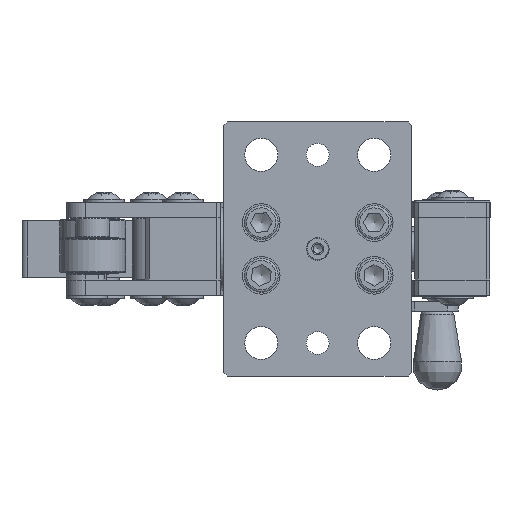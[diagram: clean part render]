
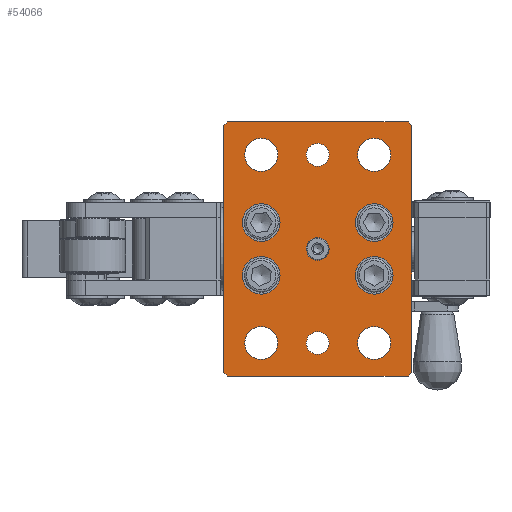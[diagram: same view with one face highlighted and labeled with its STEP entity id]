
A CAD part, left-side view. The second image highlights one B-rep face of the part: STEP entity #54066.
In plain terms, the highlighted planar face has unit normal (-1, 0, 0) as drawn and (0, 0, -1) by its records, which use the part's own axes.
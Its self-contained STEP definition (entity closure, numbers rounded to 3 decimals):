
#5401=FACE_BOUND('',#13225,.T.);
#5402=FACE_BOUND('',#13226,.T.);
#5403=FACE_BOUND('',#13227,.T.);
#5404=FACE_BOUND('',#13228,.T.);
#5405=FACE_BOUND('',#13229,.T.);
#5406=FACE_BOUND('',#13230,.T.);
#5407=FACE_BOUND('',#13231,.T.);
#5408=FACE_BOUND('',#13232,.T.);
#5409=FACE_BOUND('',#13233,.T.);
#5410=FACE_BOUND('',#13234,.T.);
#5411=FACE_BOUND('',#13235,.T.);
#7121=PLANE('',#56701);
#9841=FACE_OUTER_BOUND('',#13224,.T.);
#13224=EDGE_LOOP('',(#49952,#49953,#49954,#49955,#49956,#49957,#49958,#49959));
#13225=EDGE_LOOP('',(#49960));
#13226=EDGE_LOOP('',(#49961));
#13227=EDGE_LOOP('',(#49962));
#13228=EDGE_LOOP('',(#49963));
#13229=EDGE_LOOP('',(#49964));
#13230=EDGE_LOOP('',(#49965));
#13231=EDGE_LOOP('',(#49966));
#13232=EDGE_LOOP('',(#49967));
#13233=EDGE_LOOP('',(#49968));
#13234=EDGE_LOOP('',(#49969));
#13235=EDGE_LOOP('',(#49970));
#18362=LINE('',#93473,#23386);
#18369=LINE('',#93485,#23393);
#18375=LINE('',#93497,#23399);
#18377=LINE('',#93501,#23401);
#18379=LINE('',#93507,#23403);
#18381=LINE('',#93511,#23405);
#18386=LINE('',#93519,#23410);
#18389=LINE('',#93570,#23413);
#23386=VECTOR('',#66276,2.828);
#23393=VECTOR('',#66285,131.);
#23399=VECTOR('',#66295,2.828);
#23401=VECTOR('',#66299,96.);
#23403=VECTOR('',#66305,2.828);
#23405=VECTOR('',#66309,131.);
#23410=VECTOR('',#66316,2.828);
#23413=VECTOR('',#66383,96.);
#24092=CIRCLE('',#56627,6.05);
#24094=CIRCLE('',#56630,6.05);
#24096=CIRCLE('',#56633,6.05);
#24099=CIRCLE('',#56639,8.75);
#24103=CIRCLE('',#56646,8.75);
#24107=CIRCLE('',#56653,8.75);
#24110=CIRCLE('',#56659,8.75);
#24117=CIRCLE('',#56680,10.);
#24120=CIRCLE('',#56686,10.);
#24123=CIRCLE('',#56692,10.);
#24126=CIRCLE('',#56698,10.);
#28726=VERTEX_POINT('',#93414);
#28728=VERTEX_POINT('',#93419);
#28730=VERTEX_POINT('',#93424);
#28733=VERTEX_POINT('',#93433);
#28737=VERTEX_POINT('',#93444);
#28741=VERTEX_POINT('',#93455);
#28744=VERTEX_POINT('',#93464);
#28747=VERTEX_POINT('',#93470);
#28748=VERTEX_POINT('',#93472);
#28752=VERTEX_POINT('',#93483);
#28756=VERTEX_POINT('',#93495);
#28757=VERTEX_POINT('',#93499);
#28758=VERTEX_POINT('',#93504);
#28759=VERTEX_POINT('',#93506);
#28760=VERTEX_POINT('',#93510);
#28769=VERTEX_POINT('',#93539);
#28772=VERTEX_POINT('',#93548);
#28775=VERTEX_POINT('',#93557);
#28778=VERTEX_POINT('',#93566);
#35867=EDGE_CURVE('',#28726,#28726,#24092,.T.);
#35869=EDGE_CURVE('',#28728,#28728,#24094,.T.);
#35871=EDGE_CURVE('',#28730,#28730,#24096,.T.);
#35874=EDGE_CURVE('',#28733,#28733,#24099,.T.);
#35878=EDGE_CURVE('',#28737,#28737,#24103,.T.);
#35882=EDGE_CURVE('',#28741,#28741,#24107,.T.);
#35885=EDGE_CURVE('',#28744,#28744,#24110,.T.);
#35888=EDGE_CURVE('',#28747,#28748,#18362,.T.);
#35895=EDGE_CURVE('',#28747,#28752,#18369,.T.);
#35901=EDGE_CURVE('',#28756,#28752,#18375,.T.);
#35903=EDGE_CURVE('',#28756,#28757,#18377,.T.);
#35905=EDGE_CURVE('',#28758,#28759,#18379,.T.);
#35907=EDGE_CURVE('',#28760,#28759,#18381,.T.);
#35912=EDGE_CURVE('',#28760,#28757,#18386,.T.);
#35921=EDGE_CURVE('',#28769,#28769,#24117,.T.);
#35924=EDGE_CURVE('',#28772,#28772,#24120,.T.);
#35927=EDGE_CURVE('',#28775,#28775,#24123,.T.);
#35930=EDGE_CURVE('',#28778,#28778,#24126,.T.);
#35931=EDGE_CURVE('',#28758,#28748,#18389,.T.);
#49952=ORIENTED_EDGE('',*,*,#35888,.F.);
#49953=ORIENTED_EDGE('',*,*,#35895,.T.);
#49954=ORIENTED_EDGE('',*,*,#35901,.F.);
#49955=ORIENTED_EDGE('',*,*,#35903,.T.);
#49956=ORIENTED_EDGE('',*,*,#35912,.F.);
#49957=ORIENTED_EDGE('',*,*,#35907,.T.);
#49958=ORIENTED_EDGE('',*,*,#35905,.F.);
#49959=ORIENTED_EDGE('',*,*,#35931,.T.);
#49960=ORIENTED_EDGE('',*,*,#35867,.T.);
#49961=ORIENTED_EDGE('',*,*,#35869,.T.);
#49962=ORIENTED_EDGE('',*,*,#35871,.T.);
#49963=ORIENTED_EDGE('',*,*,#35874,.T.);
#49964=ORIENTED_EDGE('',*,*,#35878,.T.);
#49965=ORIENTED_EDGE('',*,*,#35882,.T.);
#49966=ORIENTED_EDGE('',*,*,#35885,.T.);
#49967=ORIENTED_EDGE('',*,*,#35921,.T.);
#49968=ORIENTED_EDGE('',*,*,#35924,.T.);
#49969=ORIENTED_EDGE('',*,*,#35927,.T.);
#49970=ORIENTED_EDGE('',*,*,#35930,.T.);
#54066=ADVANCED_FACE('',(#9841,#5401,#5402,#5403,#5404,#5405,#5406,#5407,
#5408,#5409,#5410,#5411),#7121,.F.);
#56627=AXIS2_PLACEMENT_3D('',#93415,#66206,#66207);
#56630=AXIS2_PLACEMENT_3D('',#93420,#66212,#66213);
#56633=AXIS2_PLACEMENT_3D('',#93425,#66218,#66219);
#56639=AXIS2_PLACEMENT_3D('',#93434,#66230,#66231);
#56646=AXIS2_PLACEMENT_3D('',#93445,#66244,#66245);
#56653=AXIS2_PLACEMENT_3D('',#93456,#66258,#66259);
#56659=AXIS2_PLACEMENT_3D('',#93465,#66270,#66271);
#56680=AXIS2_PLACEMENT_3D('',#93540,#66341,#66342);
#56686=AXIS2_PLACEMENT_3D('',#93549,#66353,#66354);
#56692=AXIS2_PLACEMENT_3D('',#93558,#66365,#66366);
#56698=AXIS2_PLACEMENT_3D('',#93567,#66377,#66378);
#56701=AXIS2_PLACEMENT_3D('',#93571,#66384,#66385);
#66206=DIRECTION('center_axis',(0.,0.,1.));
#66207=DIRECTION('ref_axis',(1.,0.,0.));
#66212=DIRECTION('center_axis',(0.,0.,1.));
#66213=DIRECTION('ref_axis',(1.,0.,0.));
#66218=DIRECTION('center_axis',(0.,0.,1.));
#66219=DIRECTION('ref_axis',(1.,0.,0.));
#66230=DIRECTION('center_axis',(0.,0.,1.));
#66231=DIRECTION('ref_axis',(1.,0.,0.));
#66244=DIRECTION('center_axis',(0.,0.,1.));
#66245=DIRECTION('ref_axis',(1.,0.,0.));
#66258=DIRECTION('center_axis',(0.,0.,1.));
#66259=DIRECTION('ref_axis',(1.,0.,0.));
#66270=DIRECTION('center_axis',(0.,0.,1.));
#66271=DIRECTION('ref_axis',(1.,0.,0.));
#66276=DIRECTION('',(-0.707,-0.707,0.));
#66285=DIRECTION('',(1.,0.,0.));
#66295=DIRECTION('',(-0.707,0.707,0.));
#66299=DIRECTION('',(0.,-1.,0.));
#66305=DIRECTION('',(0.707,-0.707,0.));
#66309=DIRECTION('',(-1.,0.,0.));
#66316=DIRECTION('',(0.707,0.707,0.));
#66341=DIRECTION('center_axis',(0.,0.,1.));
#66342=DIRECTION('ref_axis',(-1.,0.,0.));
#66353=DIRECTION('center_axis',(0.,0.,1.));
#66354=DIRECTION('ref_axis',(-1.,0.,0.));
#66365=DIRECTION('center_axis',(0.,0.,1.));
#66366=DIRECTION('ref_axis',(-1.,0.,0.));
#66377=DIRECTION('center_axis',(0.,0.,1.));
#66378=DIRECTION('ref_axis',(-1.,0.,0.));
#66383=DIRECTION('',(0.,1.,0.));
#66384=DIRECTION('center_axis',(0.,0.,1.));
#66385=DIRECTION('ref_axis',(1.,0.,0.));
#93414=CARTESIAN_POINT('',(-6.05,0.,0.));
#93415=CARTESIAN_POINT('Origin',(0.,0.,0.));
#93419=CARTESIAN_POINT('',(-56.05,0.,0.));
#93420=CARTESIAN_POINT('Origin',(-50.,0.,0.));
#93424=CARTESIAN_POINT('',(43.95,0.,0.));
#93425=CARTESIAN_POINT('Origin',(50.,0.,0.));
#93433=CARTESIAN_POINT('',(41.25,-30.,0.));
#93434=CARTESIAN_POINT('Origin',(50.,-30.,0.));
#93444=CARTESIAN_POINT('',(-58.75,30.,0.));
#93445=CARTESIAN_POINT('Origin',(-50.,30.,0.));
#93455=CARTESIAN_POINT('',(-58.75,-30.,0.));
#93456=CARTESIAN_POINT('Origin',(-50.,-30.,0.));
#93464=CARTESIAN_POINT('',(41.25,30.,0.));
#93465=CARTESIAN_POINT('Origin',(50.,30.,0.));
#93470=CARTESIAN_POINT('',(-65.5,50.,0.));
#93472=CARTESIAN_POINT('',(-67.5,48.,0.));
#93473=CARTESIAN_POINT('',(-62.125,53.375,0.));
#93483=CARTESIAN_POINT('',(65.5,50.,0.));
#93485=CARTESIAN_POINT('',(-67.5,50.,0.));
#93495=CARTESIAN_POINT('',(67.5,48.,0.));
#93497=CARTESIAN_POINT('',(62.125,53.375,0.));
#93499=CARTESIAN_POINT('',(67.5,-48.,0.));
#93501=CARTESIAN_POINT('',(67.5,50.,0.));
#93504=CARTESIAN_POINT('',(-67.5,-48.,0.));
#93506=CARTESIAN_POINT('',(-65.5,-50.,0.));
#93507=CARTESIAN_POINT('',(-62.125,-53.375,0.));
#93510=CARTESIAN_POINT('',(65.5,-50.,0.));
#93511=CARTESIAN_POINT('',(67.5,-50.,0.));
#93519=CARTESIAN_POINT('',(62.125,-53.375,0.));
#93539=CARTESIAN_POINT('',(-24.,-30.,0.));
#93540=CARTESIAN_POINT('Origin',(-14.,-30.,0.));
#93548=CARTESIAN_POINT('',(4.,30.,0.));
#93549=CARTESIAN_POINT('Origin',(14.,30.,0.));
#93557=CARTESIAN_POINT('',(4.,-30.,0.));
#93558=CARTESIAN_POINT('Origin',(14.,-30.,0.));
#93566=CARTESIAN_POINT('',(-24.,30.,0.));
#93567=CARTESIAN_POINT('Origin',(-14.,30.,0.));
#93570=CARTESIAN_POINT('',(-67.5,-50.,0.));
#93571=CARTESIAN_POINT('Origin',(0.,0.,0.));
